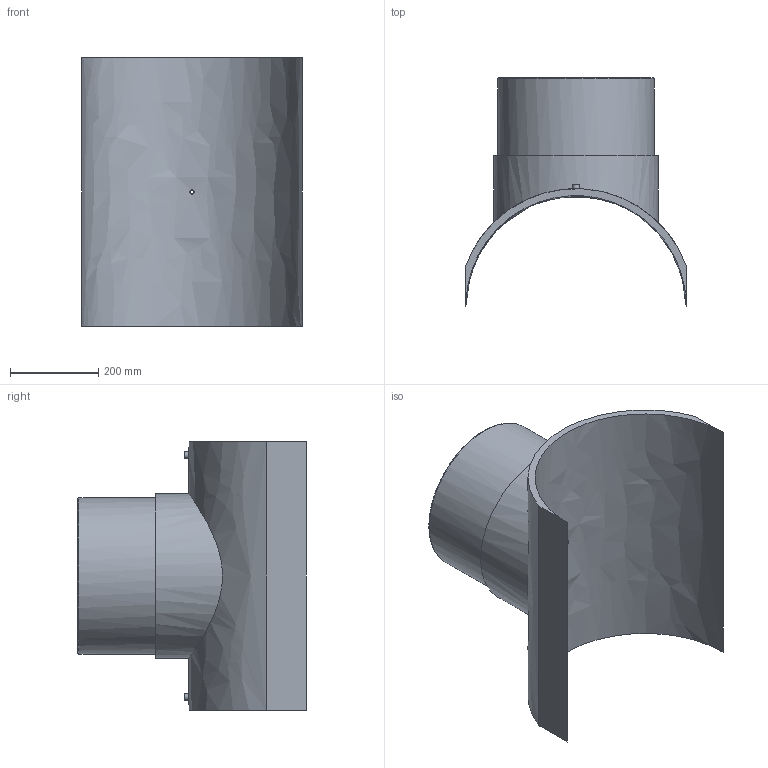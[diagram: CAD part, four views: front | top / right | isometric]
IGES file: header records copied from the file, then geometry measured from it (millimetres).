
Global section: file name: 495803500355T; native system: Autodesk Inventor 2019; preprocessor: unknown; author: KIM; date: 20240404.115221; units: millimetre
Bounding box: 500 x 518 x 610 mm (x, y, z)
Volume: 17777491.9 mm3; surface area: 1584884.4 mm2
Topology: 1 solids, 1 shells, 29 faces, 60 edges, 43 vertices
Faces by surface type: bspline 29
